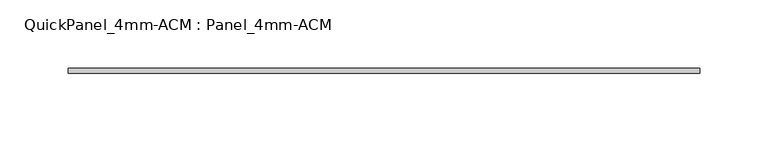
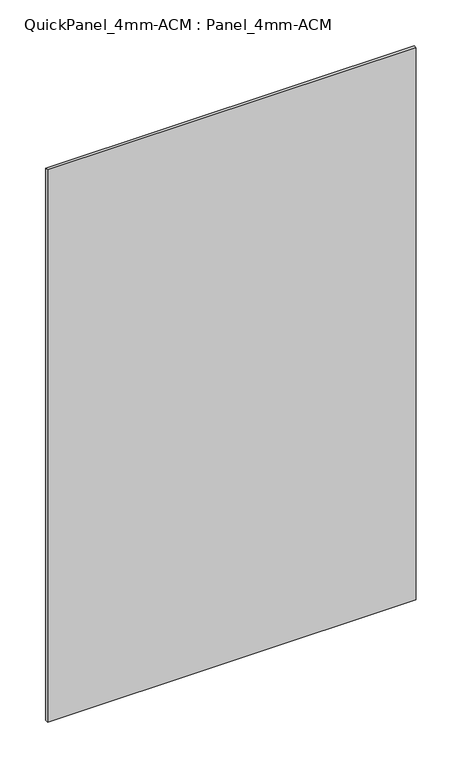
"""IFC4 building model written with IfcOpenShell, lengths in millimetres: plate geometry, QuickPanel_4mm-ACM : Panel_4mm-ACM."""

from ifc_helpers import new_model, si_unit, origin, origin_with_axes, place, context, project, spatial, polyline, outline, extrude, source, transform, mapped, element, save


def quickpanel_4mm_acm_panel_4mm_acm_0c18de2a(model_context):
    return source(origin(), model_context, "Body", "SweptSolid", [
        extrude(outline(polyline([(-231.83849, 6.096), (-231.83849, 9.906), (231.83849, 9.906), (231.83849, 6.096), (-231.83849, 6.096)])), origin_with_axes(), (0.0, 0.0, 1.0), 734.3930447),
    ])


if __name__ == "__main__":
    model = new_model("IFC4")
    model_context = context("Model", 3, world=origin())
    ifc_project = project(units=[si_unit("LENGTHUNIT", "METRE", prefix="MILLI")], contexts=[model_context])
    site = spatial("IfcSite", under=ifc_project)
    building = spatial("IfcBuilding", under=site)
    placement = place(None, origin())
    quickpanel_4mm_acm_panel_4mm_acm_shape = quickpanel_4mm_acm_panel_4mm_acm_0c18de2a(model_context)
    element("IfcPlate", 1, ObjectType="QuickPanel_4mm-ACM : Panel_4mm-ACM", at=placement, inside=building, context=model_context, shape_type="MappedRepresentation", body=[
        mapped(quickpanel_4mm_acm_panel_4mm_acm_shape, transform((0.0, 0.0, 0.0), x_axis=(1.0, 0.0, 0.0), y_axis=(0.0, 1.0, 0.0), z_axis=(0.0, 0.0, 1.0))),
    ])
    save(model, "model.ifc")
